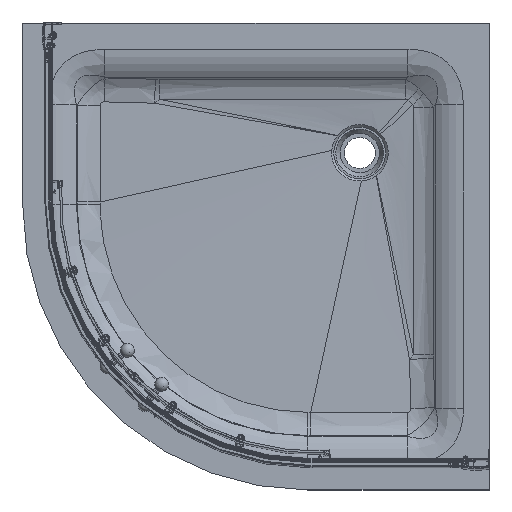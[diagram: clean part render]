
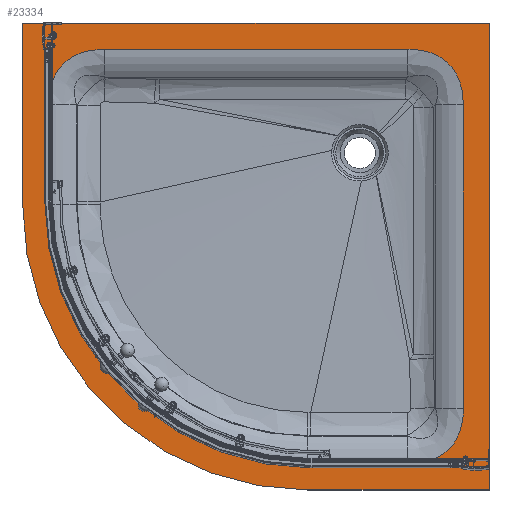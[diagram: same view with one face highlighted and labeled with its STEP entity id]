
A CAD part, top view. The second image highlights one B-rep face of the part: STEP entity #23334.
In plain terms, the highlighted planar face has unit normal (0, 0, 1).
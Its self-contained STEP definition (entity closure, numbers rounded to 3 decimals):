
#934=ELLIPSE('',#24728,359.827,174.);
#935=ELLIPSE('',#24730,359.827,174.);
#937=ELLIPSE('',#24736,359.827,174.);
#1004=LINE('',#36369,#2912);
#1008=LINE('',#36376,#2916);
#1011=LINE('',#36382,#2919);
#1035=LINE('',#38457,#2943);
#1036=LINE('',#38462,#2944);
#1038=LINE('',#38545,#2946);
#1039=LINE('',#38549,#2947);
#1045=LINE('',#38598,#2953);
#2912=VECTOR('',#27426,900.);
#2916=VECTOR('',#27432,900.);
#2919=VECTOR('',#27437,350.);
#2943=VECTOR('',#27579,192.831);
#2944=VECTOR('',#27584,192.831);
#2946=VECTOR('',#27600,585.663);
#2947=VECTOR('',#27605,585.663);
#2953=VECTOR('',#27625,350.);
#5470=FACE_BOUND('',#7366,.T.);
#5986=FACE_OUTER_BOUND('',#7365,.T.);
#7365=EDGE_LOOP('',(#16178,#16179,#16180,#16181,#16182));
#7366=EDGE_LOOP('',(#16183,#16184,#16185,#16186,#16187,#16188,#16189,#16190));
#8885=CIRCLE('',#24722,499.957);
#8892=CIRCLE('',#24742,550.);
#10105=VERTEX_POINT('',#36366);
#10106=VERTEX_POINT('',#36368);
#10108=VERTEX_POINT('',#36374);
#10110=VERTEX_POINT('',#36380);
#10175=VERTEX_POINT('',#38445);
#10178=VERTEX_POINT('',#38450);
#10179=VERTEX_POINT('',#38454);
#10181=VERTEX_POINT('',#38460);
#10182=VERTEX_POINT('',#38499);
#10184=VERTEX_POINT('',#38538);
#10185=VERTEX_POINT('',#38543);
#10186=VERTEX_POINT('',#38547);
#10187=VERTEX_POINT('',#38596);
#12382=EDGE_CURVE('',#10105,#10106,#1004,.T.);
#12386=EDGE_CURVE('',#10108,#10105,#1008,.T.);
#12389=EDGE_CURVE('',#10110,#10108,#1011,.T.);
#12515=EDGE_CURVE('',#10178,#10175,#8885,.T.);
#12518=EDGE_CURVE('',#10175,#10179,#1035,.T.);
#12520=EDGE_CURVE('',#10181,#10178,#1036,.T.);
#12523=EDGE_CURVE('',#10179,#10182,#934,.T.);
#12525=EDGE_CURVE('',#10184,#10181,#935,.T.);
#12528=EDGE_CURVE('',#10182,#10185,#1038,.T.);
#12530=EDGE_CURVE('',#10186,#10184,#1039,.T.);
#12532=EDGE_CURVE('',#10185,#10186,#937,.T.);
#12537=EDGE_CURVE('',#10187,#10110,#8892,.T.);
#12538=EDGE_CURVE('',#10106,#10187,#1045,.T.);
#16178=ORIENTED_EDGE('',*,*,#12386,.F.);
#16179=ORIENTED_EDGE('',*,*,#12389,.F.);
#16180=ORIENTED_EDGE('',*,*,#12537,.F.);
#16181=ORIENTED_EDGE('',*,*,#12538,.F.);
#16182=ORIENTED_EDGE('',*,*,#12382,.F.);
#16183=ORIENTED_EDGE('',*,*,#12515,.F.);
#16184=ORIENTED_EDGE('',*,*,#12520,.F.);
#16185=ORIENTED_EDGE('',*,*,#12525,.F.);
#16186=ORIENTED_EDGE('',*,*,#12530,.F.);
#16187=ORIENTED_EDGE('',*,*,#12532,.F.);
#16188=ORIENTED_EDGE('',*,*,#12528,.F.);
#16189=ORIENTED_EDGE('',*,*,#12523,.F.);
#16190=ORIENTED_EDGE('',*,*,#12518,.F.);
#22641=PLANE('',#24741);
#23334=ADVANCED_FACE('',(#5986,#5470),#22641,.T.);
#24722=AXIS2_PLACEMENT_3D('',#38452,#27572,#27573);
#24728=AXIS2_PLACEMENT_3D('',#38501,#27588,#27589);
#24730=AXIS2_PLACEMENT_3D('',#38540,#27592,#27593);
#24736=AXIS2_PLACEMENT_3D('',#38586,#27607,#27608);
#24741=AXIS2_PLACEMENT_3D('',#38595,#27621,#27622);
#24742=AXIS2_PLACEMENT_3D('',#38597,#27623,#27624);
#27426=DIRECTION('',(0.,-1.,0.));
#27432=DIRECTION('',(1.,0.,0.));
#27437=DIRECTION('',(0.,1.,0.));
#27572=DIRECTION('center_axis',(0.,0.,1.));
#27573=DIRECTION('ref_axis',(-0.707,-0.707,0.));
#27579=DIRECTION('',(1.,0.,0.));
#27584=DIRECTION('',(0.,-1.,0.));
#27588=DIRECTION('center_axis',(0.,0.,1.));
#27589=DIRECTION('ref_axis',(0.707,-0.707,0.));
#27592=DIRECTION('center_axis',(0.,0.,1.));
#27593=DIRECTION('ref_axis',(-0.707,0.707,0.));
#27600=DIRECTION('',(0.,1.,0.));
#27605=DIRECTION('',(-1.,0.,0.));
#27607=DIRECTION('center_axis',(0.,0.,1.));
#27608=DIRECTION('ref_axis',(0.707,0.707,0.));
#27621=DIRECTION('center_axis',(0.,0.,1.));
#27622=DIRECTION('ref_axis',(1.,0.,0.));
#27623=DIRECTION('center_axis',(0.,0.,-1.));
#27624=DIRECTION('ref_axis',(1.,0.,0.));
#27625=DIRECTION('',(-1.,0.,0.));
#36366=CARTESIAN_POINT('',(875.088,24.735,0.));
#36368=CARTESIAN_POINT('',(875.088,-875.265,0.));
#36369=CARTESIAN_POINT('',(875.088,24.735,0.));
#36374=CARTESIAN_POINT('',(-24.912,24.735,0.));
#36376=CARTESIAN_POINT('',(-24.912,24.735,0.));
#36380=CARTESIAN_POINT('',(-24.912,-325.265,0.));
#36382=CARTESIAN_POINT('',(-24.912,-325.265,0.));
#38445=CARTESIAN_POINT('',(525.088,-825.222,0.));
#38450=CARTESIAN_POINT('',(25.132,-325.265,0.));
#38452=CARTESIAN_POINT('Origin',(525.088,-325.265,0.));
#38454=CARTESIAN_POINT('',(717.92,-825.222,0.));
#38457=CARTESIAN_POINT('',(495.022,-825.222,0.));
#38460=CARTESIAN_POINT('',(25.132,-132.434,0.));
#38462=CARTESIAN_POINT('',(25.132,-220.331,0.));
#38499=CARTESIAN_POINT('',(825.045,-718.096,0.));
#38501=CARTESIAN_POINT('Origin',(542.422,-542.599,0.));
#38538=CARTESIAN_POINT('',(132.257,-25.309,0.));
#38540=CARTESIAN_POINT('Origin',(307.755,-307.931,0.));
#38543=CARTESIAN_POINT('',(825.045,-132.434,0.));
#38545=CARTESIAN_POINT('',(825.045,-590.331,0.));
#38547=CARTESIAN_POINT('',(717.92,-25.309,0.));
#38549=CARTESIAN_POINT('',(630.022,-25.309,0.));
#38586=CARTESIAN_POINT('Origin',(542.422,-307.931,0.));
#38595=CARTESIAN_POINT('Origin',(464.956,-385.398,0.));
#38596=CARTESIAN_POINT('',(525.088,-875.265,0.));
#38597=CARTESIAN_POINT('Origin',(525.088,-325.265,0.));
#38598=CARTESIAN_POINT('',(875.088,-875.265,0.));
